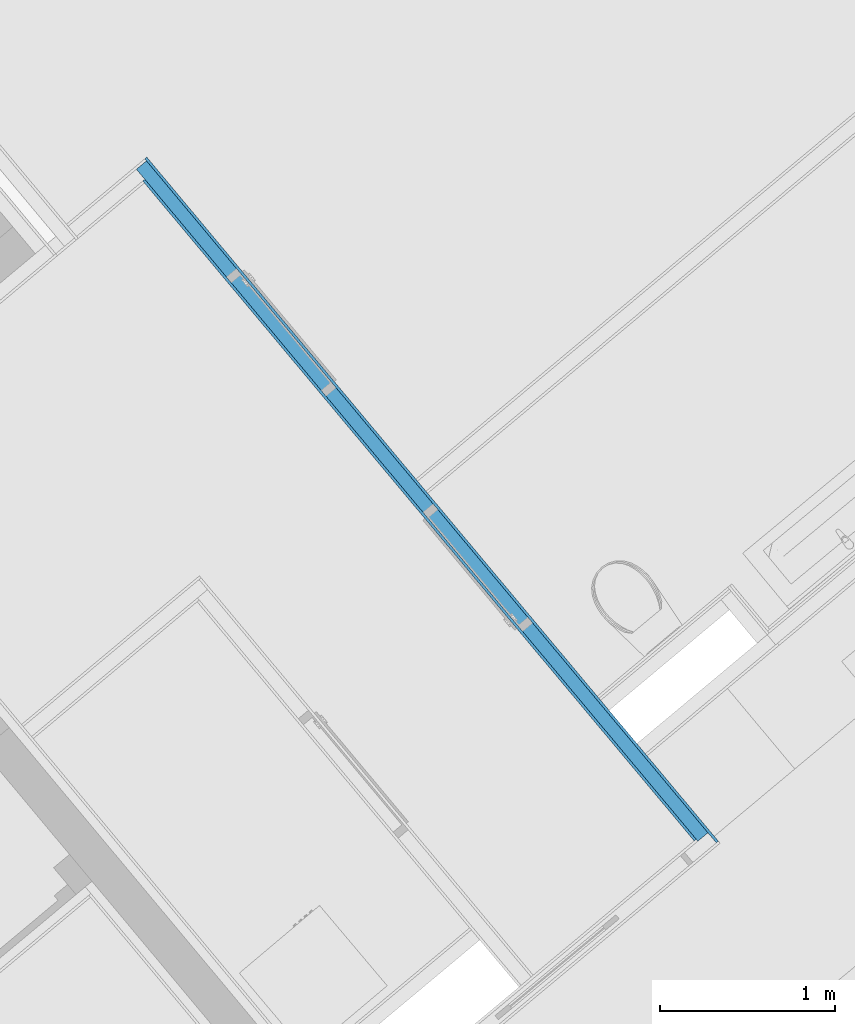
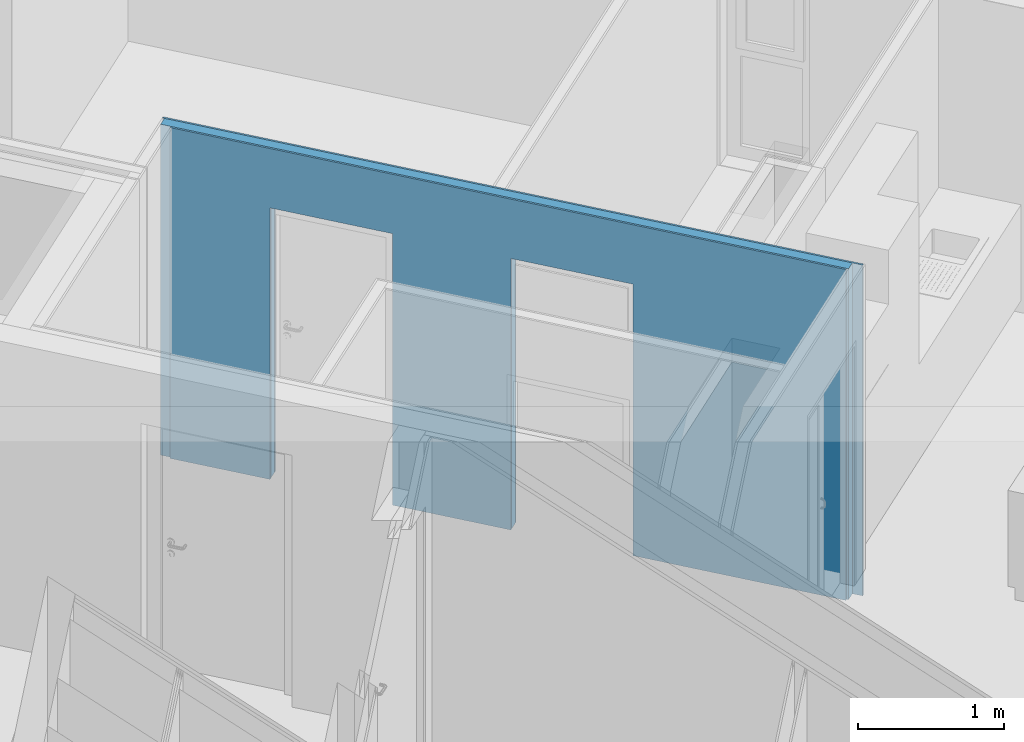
# One storey, part 15 of 53: 3 building element parts, 2 openings, 1 element without a shape of its own.
"""IFC4 building model written with IfcOpenShell, lengths in metres."""

from ifc_helpers import new_model, entity, si_unit, converted_unit, derived_unit, direction, frame, origin_with_axes, place, context, subcontext, project, spatial, polygons, material, type_object, element, aggregate, save


model = new_model("IFC4")

# Units and contexts
model_context = context("Model", 3, precision=1e-05, world=origin_with_axes(), true_north=direction((0.0, 1.0)))
body_context = subcontext(model_context, "Body", "Model", "MODEL_VIEW")
ifc_project = project(units=[si_unit("LENGTHUNIT", "METRE"), si_unit("AREAUNIT", "SQUARE_METRE"), si_unit("VOLUMEUNIT", "CUBIC_METRE"), converted_unit("PLANEANGLEUNIT", "DEGREE", entity("IfcPlaneAngleMeasure", 0.0174532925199), si_unit("PLANEANGLEUNIT", "RADIAN"), dimensions=[0, 0, 0, 0, 0, 0, 0]), converted_unit("TIMEUNIT", "Year", entity("IfcTimeMeasure", 31556926.0), si_unit("TIMEUNIT", "SECOND"), dimensions=[0, 0, 1, 0, 0, 0, 0]), si_unit("MASSUNIT", "GRAM", prefix="KILO"), si_unit("THERMODYNAMICTEMPERATUREUNIT", "DEGREE_CELSIUS"), si_unit("LUMINOUSINTENSITYUNIT", "LUMEN"), si_unit("ENERGYUNIT", "JOULE", prefix="MEGA"), derived_unit("THERMALCONDUCTANCEUNIT", [(si_unit("POWERUNIT", "WATT"), 1), (si_unit("LENGTHUNIT", "METRE"), -1), (si_unit("THERMODYNAMICTEMPERATUREUNIT", "KELVIN"), -1)]), derived_unit("SPECIFICHEATCAPACITYUNIT", [(si_unit("ENERGYUNIT", "JOULE"), 1), (si_unit("MASSUNIT", "GRAM", prefix="KILO"), -1), (si_unit("THERMODYNAMICTEMPERATUREUNIT", "KELVIN"), -1)]), derived_unit("MASSDENSITYUNIT", [(si_unit("MASSUNIT", "GRAM", prefix="KILO"), 1), (si_unit("VOLUMEUNIT", "CUBIC_METRE"), -1)])], contexts=[model_context])

# Site, building, storey
site_placement = place(None, frame((-0.00153261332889, -0.00661245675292, 0.0), z_axis=(0.0, 0.0, 1.0), x_axis=(1.0, 0.0, 0.0)))
site = spatial("IfcSite", under=ifc_project, at=site_placement, Name="Gelände", CompositionType="ELEMENT")
building_placement = place(site_placement, origin_with_axes())
building = spatial("IfcBuilding", under=site, at=building_placement, Name="Gebäude", CompositionType="ELEMENT")
storey_placement = place(building_placement, frame((0.0, 0.0, 2.74), z_axis=(0.0, 0.0, 1.0), x_axis=(1.0, 0.0, 0.0)))
storey = spatial("IfcBuildingStorey", under=building, at=storey_placement, Name="OG1", CompositionType="ELEMENT", Elevation=2.74)

# Wall, openings, building element parts
wall_type = type_object("IfcWallType", Name="IW LB 01 Leichtbautrennwand einfach 10,5 cm 105", PredefinedType="NOTDEFINED")
wall_placement = place(storey_placement, frame((6.82661068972, 22.4478297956, 0.0), z_axis=(0.0, 0.0, 1.0), x_axis=(-0.641209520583, 0.767365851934, 0.0)))
wall = element("IfcWall", 1, at=wall_placement, inside=storey, type_object=wall_type, Name="Wand-012", PredefinedType="NOTDEFINED")
opening_1_placement = place(wall_placement, frame((2.09706783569, 0.0, 0.22), z_axis=(0.0, 0.0, 1.0), x_axis=(1.0, 0.0, 0.0)))
element("IfcOpeningElement", 2, at=opening_1_placement, cuts=wall, Name="Tür-014", context=body_context, identifier="Reference", shape_type="Tessellation", body=[
    polygons([(-0.445, -2.51639218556, 2.045), (-0.445, -2.51639218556, -0.22), (0.445, -2.51639218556, -0.22), (0.445, -2.51639218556, 2.045), (-0.445, 2.62139218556, 2.045), (-0.445, 2.62139218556, -0.22), (0.445, 2.62139218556, -0.22), (0.445, 2.62139218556, 2.045)], [[[1, 2, 3, 4]], [[5, 6, 2, 1]], [[6, 7, 3, 2]], [[7, 8, 4, 3]], [[8, 5, 1, 4]], [[7, 6, 5, 8]]], closed=True),
])
opening_2_placement = place(wall_placement, frame((3.85013716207, 0.0, 0.22), z_axis=(0.0, 0.0, 1.0), x_axis=(1.0, 0.0, 0.0)))
element("IfcOpeningElement", 3, at=opening_2_placement, cuts=wall, Name="Tür-016", context=body_context, identifier="Reference", shape_type="Tessellation", body=[
    polygons([(0.445, 2.62139218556, 2.045), (0.445, 2.62139218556, -0.22), (-0.445, 2.62139218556, -0.22), (-0.445, 2.62139218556, 2.045), (0.445, -2.51639218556, 2.045), (0.445, -2.51639218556, -0.22), (-0.445, -2.51639218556, -0.22), (-0.445, -2.51639218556, 2.045)], [[[1, 2, 3, 4]], [[5, 6, 2, 1]], [[6, 7, 3, 2]], [[7, 8, 4, 3]], [[8, 5, 1, 4]], [[7, 6, 5, 8]]], closed=True),
])
ifc_material_1 = material(Name="Gipskarton")
building_element_part_1_placement = place(wall_placement, origin_with_axes())
building_element_part_1 = element("IfcBuildingElementPart", 4, at=building_element_part_1_placement, material=ifc_material_1, Name="Gipskarton", PredefinedType="NOTDEFINED", context=body_context, shape_type="Tessellation", body=[
    polygons([(4.29513716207, 0.09, 2.265), (4.29513716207, 0.09, 0.22), (4.29513712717, 0.09, 0.0), (5.02214632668, 0.09, 0.0), (5.02214632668, 0.09, 2.76), (0.105056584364, 0.09, 2.76), (0.105056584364, 0.09, 0.0), (1.6520678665, 0.09, 0.0), (1.65206783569, 0.09, 0.22), (1.65206783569, 0.09, 2.265), (2.54206783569, 0.09, 2.265), (2.54206783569, 0.09, 0.22), (2.54206783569, 0.09, 0.0), (3.40513716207, 0.09, 0.0), (3.40513716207, 0.09, 0.22), (3.40513716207, 0.09, 2.265), (4.29513716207, 0.105, 2.265), (4.29513716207, 0.105, 0.22), (4.29513712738, 0.105, 0.0), (5.02214632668, 0.105, 0.0), (5.02214632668, 0.105, 2.76), (0.105066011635, 0.105, 2.76), (0.105066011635, 0.105, 0.0), (1.65206786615, 0.105, 0.0), (1.65206783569, 0.105, 0.22), (1.65206783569, 0.105, 2.265), (2.54206783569, 0.105, 2.265), (2.54206783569, 0.105, 0.22), (2.54206783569, 0.105, 0.0), (3.40513716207, 0.105, 0.0), (3.40513716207, 0.105, 0.22), (3.40513716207, 0.105, 2.265)], [[[1, 2, 3, 4, 5, 6, 7, 8, 9, 10, 11, 12, 13, 14, 15, 16]], [[2, 1, 17, 18]], [[2, 18, 19, 3]], [[20, 4, 3, 19]], [[21, 5, 4, 20]], [[22, 6, 5, 21]], [[7, 6, 22, 23]], [[7, 23, 24, 8]], [[9, 8, 24, 25]], [[9, 25, 26, 10]], [[10, 26, 27, 11]], [[11, 27, 28, 12]], [[28, 29, 13, 12]], [[13, 29, 30, 14]], [[31, 15, 14, 30]], [[16, 15, 31, 32]], [[1, 16, 32, 17]], [[32, 31, 30, 29, 28, 27, 26, 25, 24, 23, 22, 21, 20, 19, 18, 17]]], closed=True),
])
ifc_material_2 = material(Name="Mineralwolle weich")
building_element_part_2_placement = place(wall_placement, origin_with_axes())
building_element_part_2 = element("IfcBuildingElementPart", 5, at=building_element_part_2_placement, material=ifc_material_2, Name="Mineralwolle weich", PredefinedType="NOTDEFINED", context=body_context, shape_type="Tessellation", body=[
    polygons([(4.29513716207, 0.015, 2.265), (4.29513716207, 0.015, 0.22), (4.29513712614, 0.015, 0.0), (5.09714632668, 0.015, 0.0), (5.09714632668, 0.015, 2.76), (0.0900094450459, 0.015, 2.76), (0.0900094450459, 0.015, 0.0), (1.65206786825, 0.015, 0.0), (1.65206783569, 0.015, 0.22), (1.65206783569, 0.015, 2.265), (2.54206783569, 0.015, 2.265), (2.54206783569, 0.015, 0.22), (2.54206783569, 0.015, 0.0), (3.40513716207, 0.015, 0.0), (3.40513716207, 0.015, 0.22), (3.40513716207, 0.015, 2.265), (4.29513716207, 0.09, 2.265), (4.29513716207, 0.09, 0.22), (4.29513712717, 0.09, 0.0), (5.09714632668, 0.09, 0.0), (5.09714632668, 0.09, 2.76), (0.0900565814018, 0.09, 2.76), (0.0900565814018, 0.09, 0.0), (1.6520678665, 0.09, 0.0), (1.65206783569, 0.09, 0.22), (1.65206783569, 0.09, 2.265), (2.54206783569, 0.09, 2.265), (2.54206783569, 0.09, 0.22), (2.54206783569, 0.09, 0.0), (3.40513716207, 0.09, 0.0), (3.40513716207, 0.09, 0.22), (3.40513716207, 0.09, 2.265)], [[[1, 2, 3, 4, 5, 6, 7, 8, 9, 10, 11, 12, 13, 14, 15, 16]], [[2, 1, 17, 18]], [[2, 18, 19, 3]], [[20, 4, 3, 19]], [[21, 5, 4, 20]], [[22, 6, 5, 21]], [[7, 6, 22, 23]], [[7, 23, 24, 8]], [[9, 8, 24, 25]], [[9, 25, 26, 10]], [[10, 26, 27, 11]], [[11, 27, 28, 12]], [[28, 29, 13, 12]], [[13, 29, 30, 14]], [[31, 15, 14, 30]], [[16, 15, 31, 32]], [[1, 16, 32, 17]], [[32, 31, 30, 29, 28, 27, 26, 25, 24, 23, 22, 21, 20, 19, 18, 17]]], closed=True),
])
building_element_part_3_placement = place(wall_placement, origin_with_axes())
building_element_part_3 = element("IfcBuildingElementPart", 6, at=building_element_part_3_placement, material=ifc_material_1, Name="Gipskarton", PredefinedType="NOTDEFINED", context=body_context, shape_type="Tessellation", body=[
    polygons([(4.29513716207, 1.80854442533e-10, 2.265), (4.29513716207, -6.83303724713e-09, 0.22), (4.29513712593, -6.83304079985e-09, 0.0), (5.11214632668, 0.0, 0.0), (5.11214632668, 0.0, 2.76), (0.0150000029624, 0.0, 2.76), (0.0150000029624, 0.0, 0.0), (1.6520678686, 6.71234090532e-09, 0.0), (1.65206783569, 6.71234090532e-09, 0.22), (1.65206783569, 1.80857995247e-10, 2.265), (2.54206783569, 1.80857995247e-10, 2.265), (2.54206783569, -3.01550784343e-10, 0.22), (2.54206783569, -3.01550784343e-10, 0.0), (3.40513716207, 1.80857995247e-10, 0.0), (3.40513716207, 1.80857995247e-10, 0.22), (3.40513716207, 1.80854442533e-10, 2.265), (4.29513716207, 0.015, 2.265), (4.29513716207, 0.015, 0.22), (4.29513712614, 0.015, 0.0), (5.11214632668, 0.015, 0.0), (5.11214632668, 0.015, 2.76), (0.0150094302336, 0.015, 2.76), (0.0150094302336, 0.015, 0.0), (1.65206786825, 0.015, 0.0), (1.65206783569, 0.015, 0.22), (1.65206783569, 0.015, 2.265), (2.54206783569, 0.015, 2.265), (2.54206783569, 0.015, 0.22), (2.54206783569, 0.015, 0.0), (3.40513716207, 0.015, 0.0), (3.40513716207, 0.015, 0.22), (3.40513716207, 0.015, 2.265)], [[[1, 2, 3, 4, 5, 6, 7, 8, 9, 10, 11, 12, 13, 14, 15, 16]], [[2, 1, 17, 18]], [[2, 18, 19, 3]], [[20, 4, 3, 19]], [[21, 5, 4, 20]], [[22, 6, 5, 21]], [[7, 6, 22, 23]], [[7, 23, 24, 8]], [[9, 8, 24, 25]], [[9, 25, 26, 10]], [[10, 26, 27, 11]], [[11, 27, 28, 12]], [[28, 29, 13, 12]], [[13, 29, 30, 14]], [[31, 15, 14, 30]], [[16, 15, 31, 32]], [[1, 16, 32, 17]], [[32, 31, 30, 29, 28, 27, 26, 25, 24, 23, 22, 21, 20, 19, 18, 17]]], closed=True),
])
aggregate(wall, [building_element_part_1, building_element_part_2, building_element_part_3])

save(model, "model.ifc")
